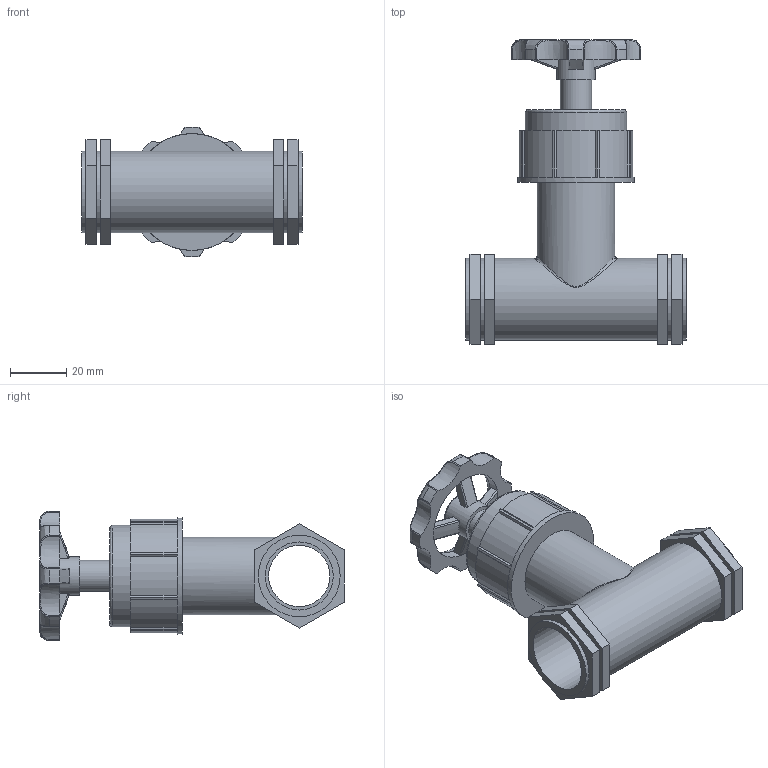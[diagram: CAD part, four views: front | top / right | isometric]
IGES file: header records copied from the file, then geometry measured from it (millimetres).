
Global section: file name: 03405077.ipt; native system: Autodesk Inventor 2015; preprocessor: unknown; author: KIM; date: 20170622.103032; units: millimetre
Bounding box: 78 x 108 x 45.98 mm (x, y, z)
Volume: 78263.6 mm3; surface area: 26907.4 mm2
Topology: 1 solids, 1 shells, 183 faces, 492 edges, 321 vertices
Faces by surface type: plane 90, cylinder 42, bspline 25, revolution 22, cone 4
Full cylindrical faces by diameter (mm): 11.04 x1, 13.8 x1, 27.6 x1, 28.94 x5, 35.88 x1, 41.4 x1
